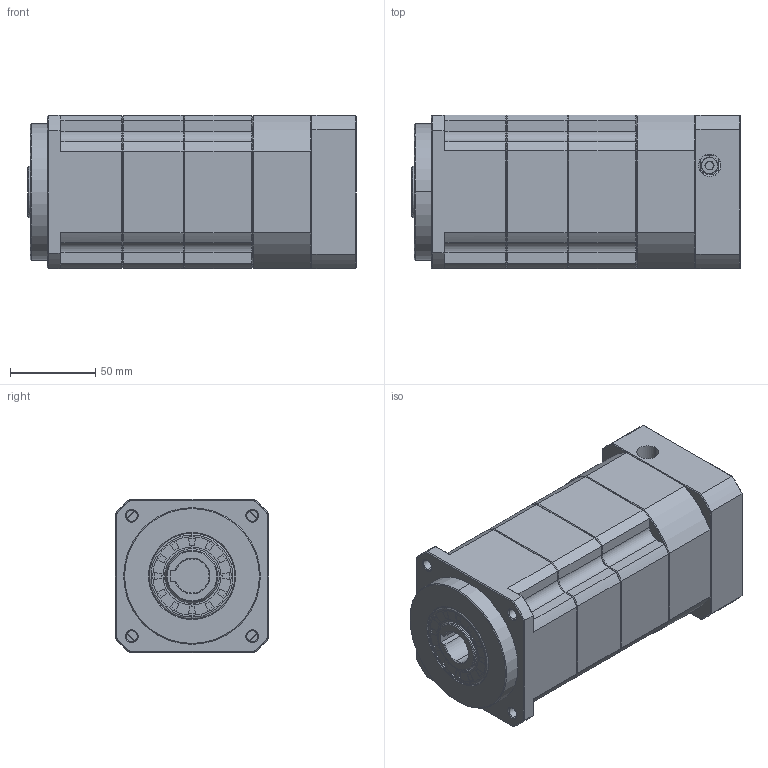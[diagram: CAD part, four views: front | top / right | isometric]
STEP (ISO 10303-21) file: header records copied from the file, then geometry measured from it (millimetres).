
FILE_DESCRIPTION (( 'STEP AP214' ), '1' );
FILE_NAME ('ZPB090-K20-L3-P1-14-73-69.6X69.6-M6.step', '2024-06-07T18:27:53', ( 'Windows 蚚誧' ), ( 'Organization' ), 'SwSTEP 2.0', 'SolidWorks 2016', '' );
FILE_SCHEMA (( 'AUTOMOTIVE_DESIGN' ));
Length unit declared in the file: millimetre
Products named in the file (1): ZPB090-K20-L3-P1-14-73-69.6X69.6-M6
Bounding box: 192.5 x 90 x 90 mm (x, y, z)
Surface area: 113961.1 mm2 (no closed solid volume)
Topology: 0 solids, 37 shells, 1937 faces, 5116 edges, 3235 vertices
Faces by surface type: plane 1003, bspline 384, cone 309, cylinder 241
Entity records: 90721 total; most frequent: CARTESIAN_POINT 41295, ORIENTED_EDGE 10139, DIRECTION 7936, EDGE_CURVE 5116, VECTOR 3360, LINE 3360, VERTEX_POINT 3235, AXIS2_PLACEMENT_3D 2288
